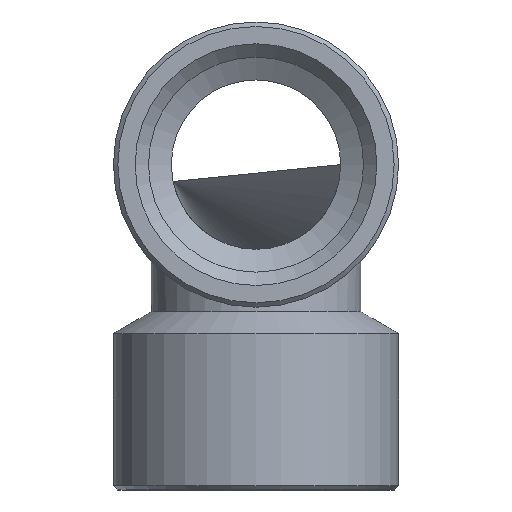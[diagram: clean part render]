
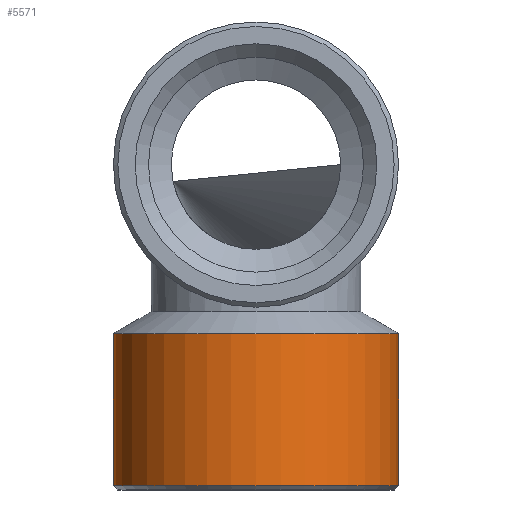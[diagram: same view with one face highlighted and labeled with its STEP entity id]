
A CAD part, left-side view. The second image highlights one B-rep face of the part: STEP entity #5571.
In plain terms, the highlighted cylindrical face has radius 16 mm (diameter 32 mm), a full revolution.
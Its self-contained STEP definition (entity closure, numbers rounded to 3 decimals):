
#1446=CYLINDRICAL_SURFACE('',#5442,16.);
#1488=ORIENTED_EDGE('',*,*,#1882,.F.);
#1489=ORIENTED_EDGE('',*,*,#1883,.T.);
#1742=CIRCLE('',#5441,16.);
#1743=CIRCLE('',#5443,16.);
#1788=VERTEX_POINT('',#2466);
#1789=VERTEX_POINT('',#2469);
#1882=EDGE_CURVE('',#1788,#1788,#1742,.T.);
#1883=EDGE_CURVE('',#1789,#1789,#1743,.T.);
#2012=EDGE_LOOP('',(#1488));
#2013=EDGE_LOOP('',(#1489));
#2098=FACE_BOUND('',#2012,.T.);
#2099=FACE_BOUND('',#2013,.T.);
#2188=DIRECTION('',(0.,-1.,0.));
#2189=DIRECTION('',(0.,0.,16.));
#2190=DIRECTION('',(0.,1.,0.));
#2191=DIRECTION('',(1.,0.,0.));
#2192=DIRECTION('',(0.,-1.,0.));
#2193=DIRECTION('',(0.,0.,16.));
#2466=CARTESIAN_POINT('',(48.803,-7.63,16.));
#2467=CARTESIAN_POINT('',(48.803,-7.63,0.));
#2468=CARTESIAN_POINT('',(48.803,-7.63,0.));
#2469=CARTESIAN_POINT('',(48.803,9.416,16.));
#2470=CARTESIAN_POINT('',(48.803,9.416,0.));
#5441=AXIS2_PLACEMENT_3D('',#2467,#2188,#2189);
#5442=AXIS2_PLACEMENT_3D('',#2468,#2190,#2191);
#5443=AXIS2_PLACEMENT_3D('',#2470,#2192,#2193);
#5571=ADVANCED_FACE('',(#2098,#2099),#1446,.T.);
